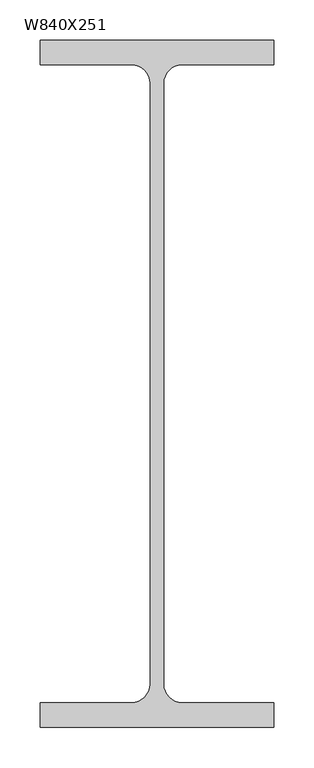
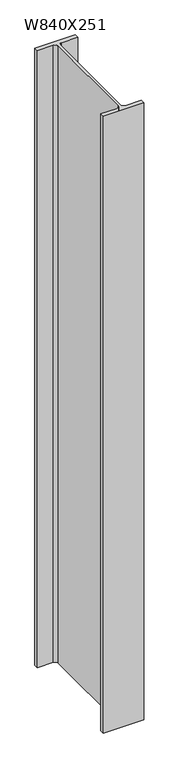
"""IFC4 building model written with IfcOpenShell, lengths in millimetres: column geometry, M_W-Wide Flange-Column : W840X251."""

from ifc_helpers import new_model, si_unit, point, frame, frame_2d, origin, place, context, project, spatial, polyline, circle_curve, trimmed, segment, composite_curve, outline, extrude, source, transform, mapped, element, save


def w840x251_bc5ce94e(model_context):
    return source(origin(), model_context, "Body", "SweptSolid", [
        extrude(outline(composite_curve([segment(polyline([(146.0, 429.5), (146.0, 398.5), (31.5, 398.5)]), True, "CONTINUOUS"), segment(trimmed(circle_curve(frame_2d((31.5, 375.5)), 23.0), [point((31.5, 398.5))], [point((8.5, 375.5))], True, "CARTESIAN"), True, "CONTINUOUS"), segment(polyline([(8.5, 375.5), (8.5, -375.5)]), True, "CONTINUOUS"), segment(trimmed(circle_curve(frame_2d((31.5, -375.5)), 23.0), [point((8.5, -375.5))], [point((31.5, -398.5))], True, "CARTESIAN"), True, "CONTINUOUS"), segment(polyline([(31.5, -398.5), (146.0, -398.5), (146.0, -429.5), (-146.0, -429.5), (-146.0, -398.5), (-31.5, -398.5)]), True, "CONTINUOUS"), segment(trimmed(circle_curve(frame_2d((-31.5, -375.5)), 23.0), [point((-31.5, -398.5))], [point((-8.5, -375.5))], True, "CARTESIAN"), True, "CONTINUOUS"), segment(polyline([(-8.5, -375.5), (-8.5, 375.5)]), True, "CONTINUOUS"), segment(trimmed(circle_curve(frame_2d((-31.5, 375.5)), 23.0), [point((-8.5, 375.5))], [point((-31.5, 398.5))], True, "CARTESIAN"), True, "CONTINUOUS"), segment(polyline([(-31.5, 398.5), (-146.0, 398.5), (-146.0, 429.5), (146.0, 429.5)]), True, "CONTINUOUS")], self_intersect=False)), frame((0.0, 0.0, -1677.0), z_axis=(0.0, 0.0, 1.0), x_axis=(1.0, 0.0, 0.0)), (0.0, 0.0, 1.0), 4725.0),
    ])


if __name__ == "__main__":
    model = new_model("IFC4")
    model_context = context("Model", 3, world=origin())
    ifc_project = project(units=[si_unit("LENGTHUNIT", "METRE", prefix="MILLI")], contexts=[model_context])
    site = spatial("IfcSite", under=ifc_project)
    building = spatial("IfcBuilding", under=site)
    placement = place(None, origin())
    w840x251_shape = w840x251_bc5ce94e(model_context)
    element("IfcColumn", 1, ObjectType="M_W-Wide Flange-Column : W840X251", at=placement, inside=building, context=model_context, shape_type="MappedRepresentation", body=[
        mapped(w840x251_shape, transform((0.0, 0.0, 0.0), x_axis=(1.0, 0.0, 0.0), y_axis=(0.0, 1.0, 0.0), z_axis=(0.0, 0.0, 1.0))),
    ])
    save(model, "model.ifc")
